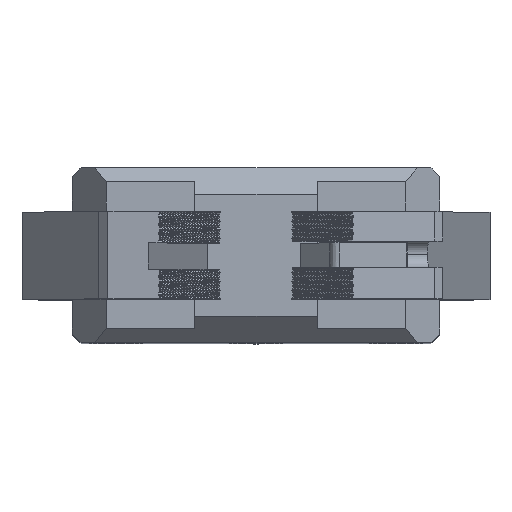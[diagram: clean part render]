
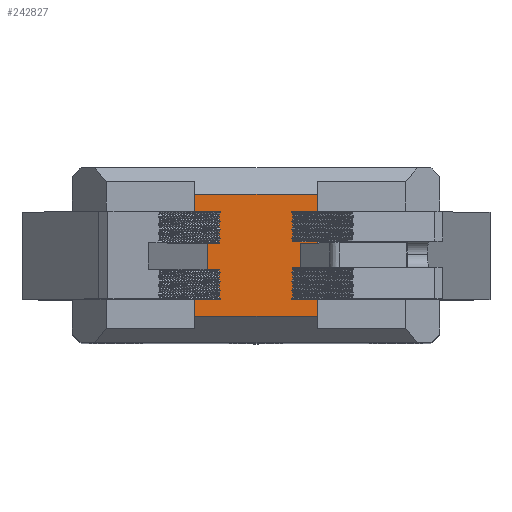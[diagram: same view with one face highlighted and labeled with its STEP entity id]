
A CAD part, top view. The second image highlights one B-rep face of the part: STEP entity #242827.
In plain terms, the highlighted planar face has unit normal (0, 0, 1).
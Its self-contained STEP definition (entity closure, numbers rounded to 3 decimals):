
#10796 = DIRECTION ( 'NONE',  ( 1., 0., 0. ) ) ;
#12764 = VECTOR ( 'NONE', #10796, 1000. ) ;
#25634 = DIRECTION ( 'NONE',  ( 0., 1., 0. ) ) ;
#35115 = LINE ( 'NONE', #138410, #155474 ) ;
#36124 = VECTOR ( 'NONE', #134278, 1000. ) ;
#40004 = VERTEX_POINT ( 'NONE', #275838 ) ;
#40766 = AXIS2_PLACEMENT_3D ( 'NONE', #197331, #61784, #219925 ) ;
#42704 = VERTEX_POINT ( 'NONE', #274088 ) ;
#43338 = CARTESIAN_POINT ( 'NONE',  ( 430.585, -50.299, 47.09 ) ) ;
#57535 = VERTEX_POINT ( 'NONE', #213751 ) ;
#61784 = DIRECTION ( 'NONE',  ( 0., 0., -1. ) ) ;
#72978 = EDGE_CURVE ( 'NONE', #40004, #57535, #35115, .T. ) ;
#74788 = FACE_OUTER_BOUND ( 'NONE', #188572, .T. ) ;
#95759 = ORIENTED_EDGE ( 'NONE', *, *, #221143, .T. ) ;
#96298 = LINE ( 'NONE', #43338, #36124 ) ;
#102658 = CARTESIAN_POINT ( 'NONE',  ( 423.585, -33.549, -54.51 ) ) ;
#128087 = PLANE ( 'NONE',  #40766 ) ;
#134278 = DIRECTION ( 'NONE',  ( 0., 1., 0. ) ) ;
#138410 = CARTESIAN_POINT ( 'NONE',  ( 416.585, -50.299, 47.09 ) ) ;
#144181 = VERTEX_POINT ( 'NONE', #186451 ) ;
#146295 = CARTESIAN_POINT ( 'NONE',  ( 430.585, -41.799, 47.09 ) ) ;
#148001 = VERTEX_POINT ( 'NONE', #102658 ) ;
#155474 = VECTOR ( 'NONE', #25634, 1000. ) ;
#180564 = EDGE_CURVE ( 'NONE', #144181, #42704, #96298, .T. ) ;
#186272 = LINE ( 'NONE', #146295, #12764 ) ;
#186451 = CARTESIAN_POINT ( 'NONE',  ( 430.585, -41.799, 47.09 ) ) ;
#188572 = EDGE_LOOP ( 'NONE', ( #269267, #95759, #234084, #148001 ) ) ;
#197331 = CARTESIAN_POINT ( 'NONE',  ( 430.585, -50.299, 47.09 ) ) ;
#213751 = CARTESIAN_POINT ( 'NONE',  ( 416.585, -27.799, 47.09 ) ) ;
#219925 = DIRECTION ( 'NONE',  ( -1., 0., 0. ) ) ;
#221143 = EDGE_CURVE ( 'NONE', #40004, #144181, #186272, .T. ) ;
#234084 = ORIENTED_EDGE ( 'NONE', *, *, #180564, .T. ) ;
#242827 = ADVANCED_FACE ( 'NONE', ( #74788 ), #128087, .F. ) ;
#269267 = ORIENTED_EDGE ( 'NONE', *, *, #72978, .F. ) ;
#274088 = CARTESIAN_POINT ( 'NONE',  ( 430.585, -27.799, 47.09 ) ) ;
#275838 = CARTESIAN_POINT ( 'NONE',  ( 416.585, -41.799, 47.09 ) ) ;
